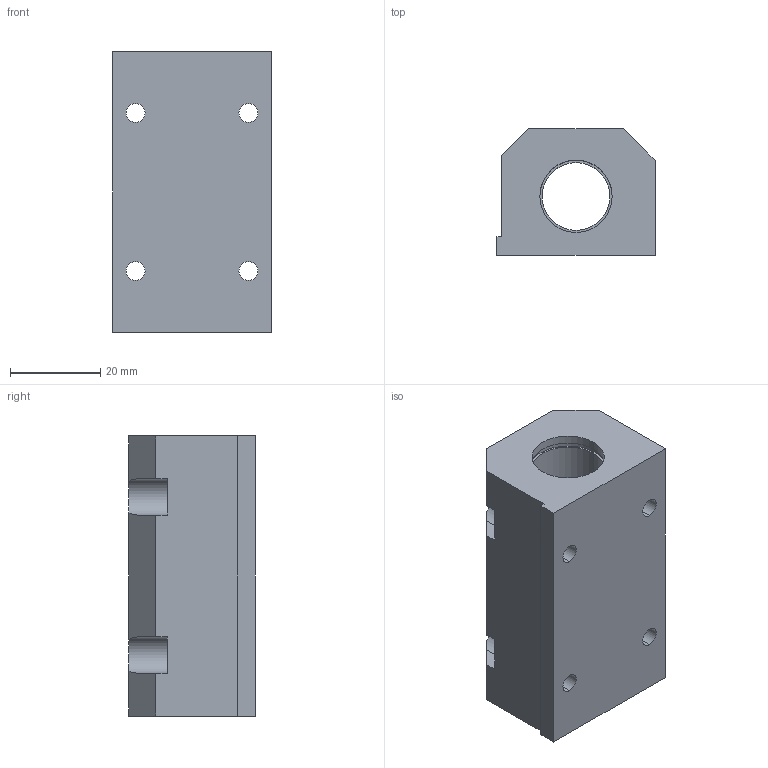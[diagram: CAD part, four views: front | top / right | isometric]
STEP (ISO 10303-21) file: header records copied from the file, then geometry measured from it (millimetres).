
FILE_DESCRIPTION (( 'STEP AP214' ), '1' );
FILE_NAME ('KTG85-I-08.step', '2020-03-04T13:29:38', ( '' ), ( '' ), 'SwSTEP 2.0', 'SolidWorks 2019', '' );
FILE_SCHEMA (( 'AUTOMOTIVE_DESIGN' ));
Length unit declared in the file: millimetre
Products named in the file (1): KTG85-I-08
Bounding box: 35 x 28 x 62 mm (x, y, z)
Volume: 41385 mm3; surface area: 13543.1 mm2
Topology: 1 solids, 1 shells, 64 faces, 164 edges, 108 vertices
Faces by surface type: plane 32, cylinder 30, cone 2
Entity records: 2182 total; most frequent: CARTESIAN_POINT 425, DIRECTION 342, ORIENTED_EDGE 328, EDGE_CURVE 164, AXIS2_PLACEMENT_3D 123, VERTEX_POINT 108, VECTOR 96, LINE 96
